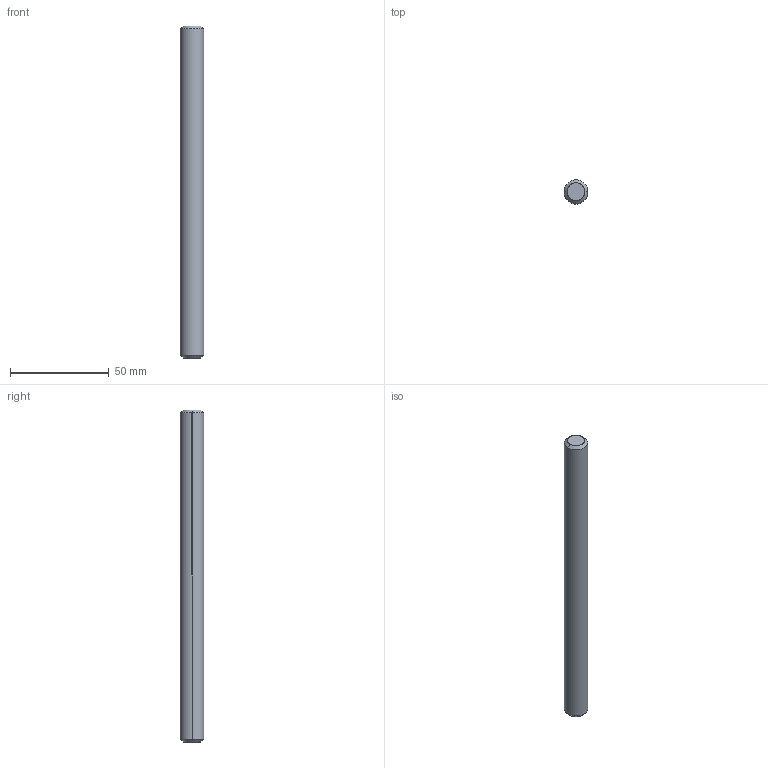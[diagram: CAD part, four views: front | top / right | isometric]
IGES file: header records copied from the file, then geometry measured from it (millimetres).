
Start section: SolidWorks IGES file using analytic representation for surfaces
Global section: file name: C:\Documents and Settings\ARGE\Desktop\yeni katalog tolgay düzenli\B kataloðu\fotosel tutma mili\export\214 154 012.IGS; native system: SolidWorks 2006 by SolidWorks Corporation; preprocessor: SolidWorks 2006 by SolidWorks Corporation; author: ARGE2; date: 060911.184044; units: millimetre
Bounding box: 12 x 12 x 168 mm (x, y, z)
Surface area: 6487.5 mm2 (no closed solid volume)
Topology: 0 solids, 0 shells, 8 faces, 88 edges, 88 vertices
Faces by surface type: revolution 6, bspline 2
